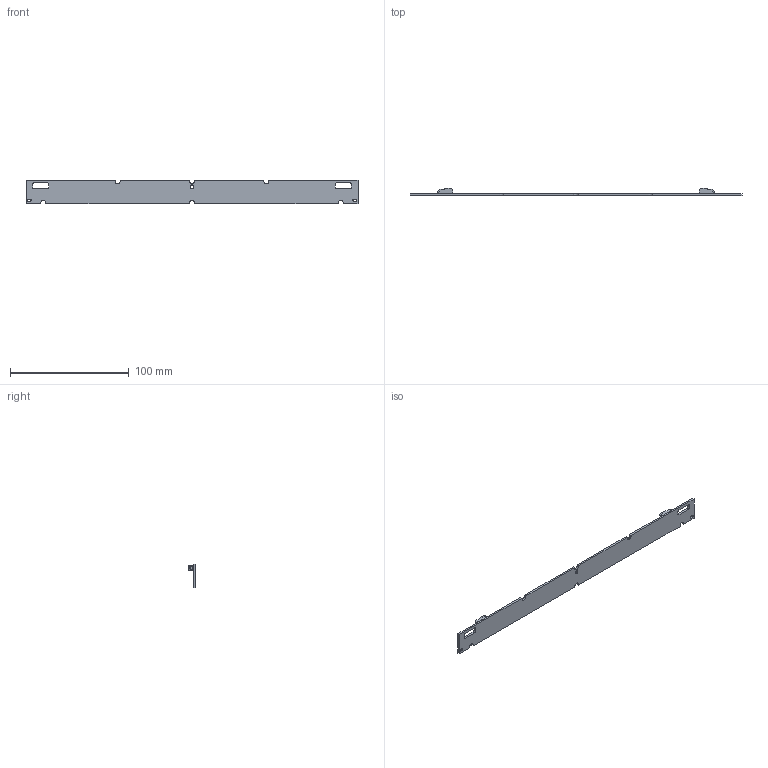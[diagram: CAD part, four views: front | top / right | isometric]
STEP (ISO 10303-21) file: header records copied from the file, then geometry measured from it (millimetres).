
FILE_DESCRIPTION (( 'STEP AP214' ), '1' );
FILE_NAME ('WU-M-576-TC-Hole.STEP', '2017-09-13T04:39:50', ( 'Admin' ), ( 'Microsoft' ), 'SwSTEP 2.0', 'SolidWorks 2017', '' );
FILE_SCHEMA (( 'AUTOMOTIVE_DESIGN' ));
Length unit declared in the file: millimetre
Products named in the file (43): STW8C2PB-E1; WU-M-576-Hole PCB; WU-M-576-TC-Hole; 2060-451
Assembly tree (39 placements, depth 2):
  STW8C2PB-E1
  STW8C2PB-E1
  STW8C2PB-E1
  STW8C2PB-E1
  STW8C2PB-E1
Bounding box: 279 x 6.11 x 20 mm (x, y, z)
Volume: 9069.2 mm3; surface area: 13453.2 mm2
Topology: 39 solids, 39 shells, 5275 faces, 14009 edges, 9338 vertices
Faces by surface type: plane 3389, cylinder 1194, bspline 692
Entity records: 142166 total; most frequent: CARTESIAN_POINT 44737, ORIENTED_EDGE 15278, DIRECTION 11601, EDGE_CURVE 7639, LINE 5105, VECTOR 5105, VERTEX_POINT 5092, AXIS2_PLACEMENT_3D 3248
